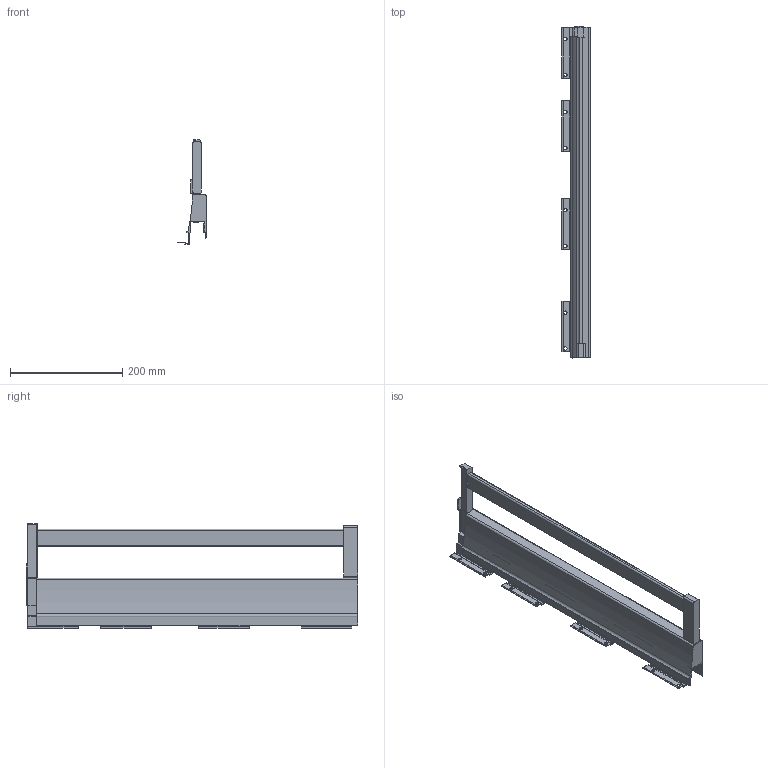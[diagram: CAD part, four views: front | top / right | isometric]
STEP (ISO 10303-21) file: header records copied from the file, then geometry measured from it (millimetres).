
FILE_DESCRIPTION (( 'STEP AP214' ), '1' );
FILE_NAME ('_XP Agantis Dekorseite H95 NL600 RE Rechteckreling.step', '2010-07-08T06:08:16', ( 'grass' ), ( '' ), 'SwSTEP 2.0', 'SolidWorks 2010', '' );
FILE_SCHEMA (( 'AUTOMOTIVE_DESIGN' ));
Length unit declared in the file: millimetre
Products named in the file (1): _XP Agantis Dekorseite H95 NL600 RE Rechteckreling
Bounding box: 50.01 x 592.45 x 187 mm (x, y, z)
Volume: 1066574.4 mm3; surface area: 257063.1 mm2
Topology: 2 solids, 2 shells, 194 faces, 561 edges, 366 vertices
Faces by surface type: plane 151, cylinder 43
Entity records: 6391 total; most frequent: ORIENTED_EDGE 1122, CARTESIAN_POINT 1122, DIRECTION 1038, EDGE_CURVE 561, VECTOR 474, LINE 474, VERTEX_POINT 366, AXIS2_PLACEMENT_3D 282
